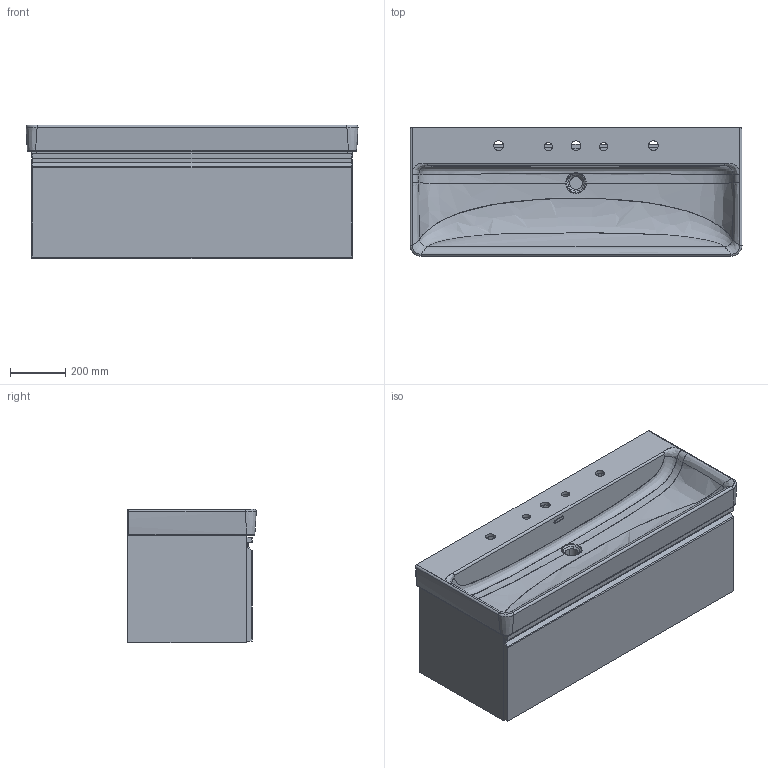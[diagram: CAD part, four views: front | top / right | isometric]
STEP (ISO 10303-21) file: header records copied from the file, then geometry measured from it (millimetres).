
FILE_DESCRIPTION(/* description */ (''),/* implementation_level */ '2;1');
FILE_NAME(/* name */ 'C:\Users\User33\Desktop\Pro S\3D01_483562.stp',/* time_stamp */ '2018-05-10T13:14:19+02:00',/* author */ ('User33'),/* organization */ (''),/* preprocessor_version */ 'ST-DEVELOPER v16.13',/* originating_system */ 'Autodesk Inventor 2018',/* authorisation */ '');
FILE_SCHEMA (('AUTOMOTIVE_DESIGN { 1 0 10303 214 3 1 1 }'));
Products named in the file (29): Assieme10; Parte646; Parte648; Parte650; Parte656; Parte658; Parte660; Parte662; Parte664; Parte666; Parte668; Parte670; Parte672; Parte674; Parte676; Parte686; Parte688; Parte690; Parte692; Parte694; Parte696; Parte698; Parte700; Parte702; Parte704; Parte706; Parte708; Parte710; Parte712
Assembly tree (28 placements, depth 2):
  Assieme10
    Parte646
    Parte648
    Parte650
    Parte656
    Parte658
    Parte660
    Parte662
    Parte664
    Parte666
    Parte668
    Parte670
    Parte672
    Parte674
    Parte676
    Parte686
    Parte688
    Parte690
    Parte692
    Parte694
    Parte696
    Parte698
    Parte700
    Parte702
    Parte704
    Parte706
    Parte708
    Parte710
    Parte712
Bounding box: 1200.76 x 465.28 x 483 mm (x, y, z)
Volume: 42863034.8 mm3; surface area: 7833238 mm2
Topology: 27 solids, 735 shells, 1519 faces, 5485 edges, 4761 vertices
Faces by surface type: plane 705, cylinder 395, bspline 354, torus 40, cone 15, sphere 10
Full cylindrical faces by diameter (mm): 2.5 x2, 4 x16, 4.1 x4, 5.1 x4, 6 x12, 7.2 x2, 10 x2, 12 x2, 12.5 x2
Entity records: 201338 total; most frequent: CARTESIAN_POINT 154557, DIRECTION 8496, ORIENTED_EDGE 7511, EDGE_CURVE 5429, VERTEX_POINT 4760, AXIS2_PLACEMENT_3D 2957, LINE 2582, VECTOR 2582
